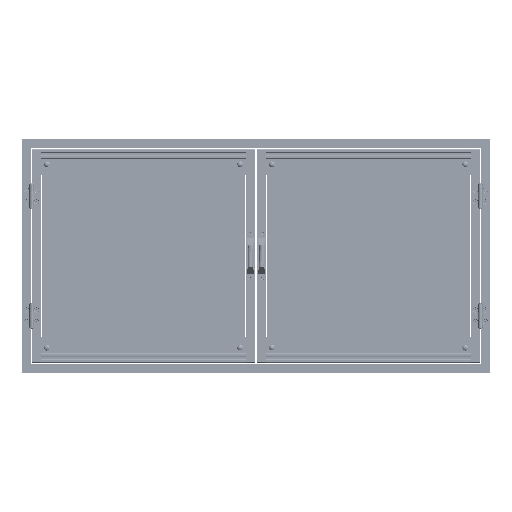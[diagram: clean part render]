
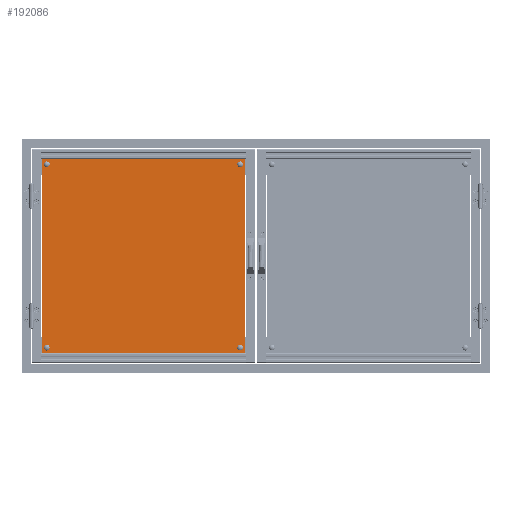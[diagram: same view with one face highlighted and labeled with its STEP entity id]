
A CAD part, top view. The second image highlights one B-rep face of the part: STEP entity #192086.
In plain terms, the highlighted planar face has unit normal (0, 0, 1) as drawn and (0, 1, 0) by its records, which use the part's own axes.
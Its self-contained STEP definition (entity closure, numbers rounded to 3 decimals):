
#191911=DIRECTION(' ',(0.,1.,0.));
#191916=CARTESIAN_POINT(' ',(-261.,5.,-248.4));
#191921=DIRECTION(' ',(0.,0.,1.));
#191926=AXIS2_PLACEMENT_3D(' ',#191916,#191911,#191921);
#191931=PLANE('',#191926);
#191936=CARTESIAN_POINT(' ',(217.5,5.,207.));
#191941=DIRECTION(' ',(-1.,0.,0.));
#191946=VECTOR(' ',#191941,1.);
#191951=LINE('',#191936,#191946);
#191956=CARTESIAN_POINT(' ',(217.5,5.,207.));
#191957=VERTEX_POINT(' ',#191956);
#191961=CARTESIAN_POINT(' ',(-217.5,5.,207.));
#191962=VERTEX_POINT(' ',#191961);
#191966=EDGE_CURVE(' ',#191957,#191962,#191951,.T.);
#191971=ORIENTED_EDGE(' ',*,*,#191966,.F.);
#191976=CARTESIAN_POINT(' ',(217.5,5.,-207.));
#191981=DIRECTION(' ',(0.,0.,1.));
#191986=VECTOR(' ',#191981,1.);
#191991=LINE('',#191976,#191986);
#191996=CARTESIAN_POINT(' ',(217.5,5.,-207.));
#191997=VERTEX_POINT(' ',#191996);
#192001=EDGE_CURVE(' ',#191997,#191957,#191991,.T.);
#192006=ORIENTED_EDGE(' ',*,*,#192001,.F.);
#192011=CARTESIAN_POINT(' ',(-217.5,5.,-207.));
#192016=DIRECTION(' ',(1.,0.,0.));
#192021=VECTOR(' ',#192016,1.);
#192026=LINE('',#192011,#192021);
#192031=CARTESIAN_POINT(' ',(-217.5,5.,-207.));
#192032=VERTEX_POINT(' ',#192031);
#192036=EDGE_CURVE(' ',#192032,#191997,#192026,.T.);
#192041=ORIENTED_EDGE(' ',*,*,#192036,.F.);
#192046=CARTESIAN_POINT(' ',(-217.5,5.,207.));
#192051=DIRECTION(' ',(0.,0.,-1.));
#192056=VECTOR(' ',#192051,1.);
#192061=LINE('',#192046,#192056);
#192066=EDGE_CURVE(' ',#191962,#192032,#192061,.T.);
#192071=ORIENTED_EDGE(' ',*,*,#192066,.F.);
#192076=EDGE_LOOP(' ',(#191971,#192006,#192041,#192071));
#192081=FACE_OUTER_BOUND(' ',#192076,.T.);
#192086=ADVANCED_FACE('',(#192081),#191931,.T.);
